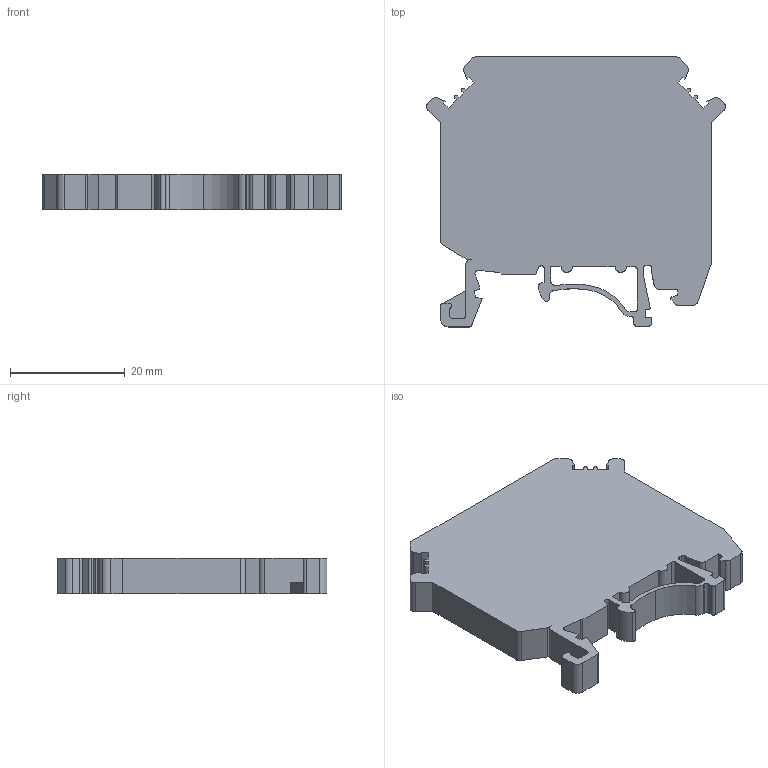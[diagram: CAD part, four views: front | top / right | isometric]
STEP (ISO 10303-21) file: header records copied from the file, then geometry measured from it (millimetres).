
FILE_DESCRIPTION(/* description */ (''),/* implementation_level */ '2;1');
FILE_NAME(/* name */ 'UT1-4K(T).stp',/* time_stamp */ '2023-02-14T12:06:43+08:00',/* author */ (''),/* organization */ (''),/* preprocessor_version */ 'ST-DEVELOPER v16.7',/* originating_system */ 'SIEMENS PLM Software NX 12.0',/* authorisation */ '');
FILE_SCHEMA (('AP203_CONFIGURATION_CONTROLLED_3D_DESIGN_OF_MECHANICAL_PARTS_AND_ASSEMBLIES_MIM_LF { 1 0 10303 403 2 1 2}'));
Length unit declared in the file: millimetre
Products named in the file (1): Admi01CC23451nav
Bounding box: 52 x 46.95 x 6.2 mm (x, y, z)
Volume: 10665.3 mm3; surface area: 5823.7 mm2
Topology: 1 solids, 1 shells, 134 faces, 390 edges, 260 vertices
Faces by surface type: plane 85, cylinder 49
Full cylindrical faces by diameter (mm): 4.2 x2
Entity records: 4530 total; most frequent: CARTESIAN_POINT 786, ORIENTED_EDGE 776, DIRECTION 756, EDGE_CURVE 388, LINE 288, VECTOR 288, VERTEX_POINT 260, AXIS2_PLACEMENT_3D 234
